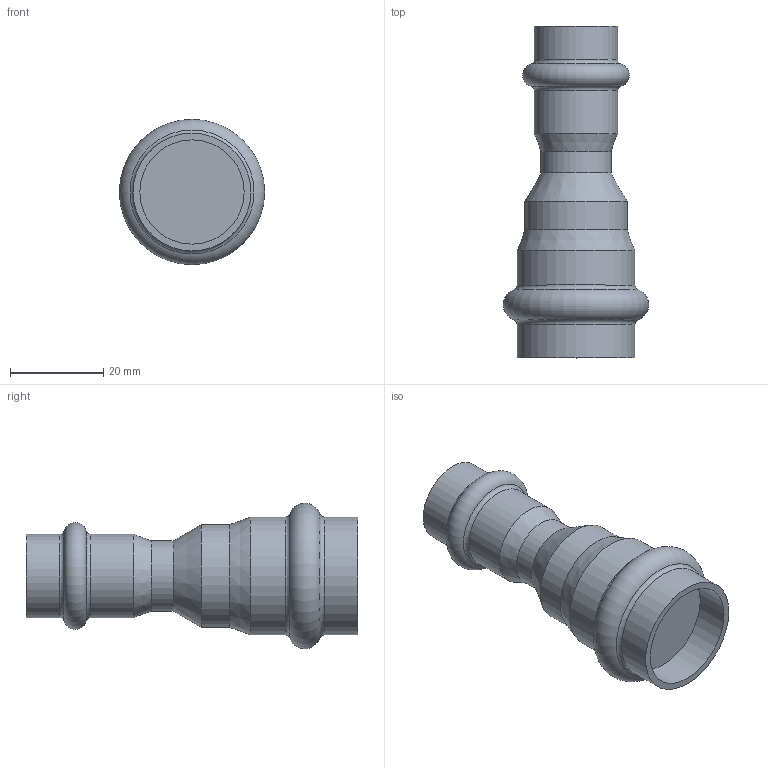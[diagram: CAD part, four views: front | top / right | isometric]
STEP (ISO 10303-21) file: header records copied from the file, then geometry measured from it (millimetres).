
FILE_DESCRIPTION(('STEP AP203'), '1');
FILE_NAME('VTi.903.I.002215', '', ('UNSPECIFIED'), ('UNSPECIFIED'), 'C3D Converter', 'C3D Toolkit', '');
FILE_SCHEMA(('CONFIG_CONTROL_DESIGN'));
Length unit declared in the file: millimetre
Bounding box: 31.1 x 71 x 31.1 mm (x, y, z)
Volume: 22550.9 mm3; surface area: 6831.7 mm2
Topology: 1 solids, 1 shells, 21 faces, 37 edges, 20 vertices
Faces by surface type: cylinder 8, torus 6, plane 4, cone 3
Full cylindrical faces by diameter (mm): 15 x1, 15.3 x1, 17.8 x2, 22 x1, 22.3 x1, 25.2 x2
Entity records: 454 total; most frequent: DIRECTION 84, CARTESIAN_POINT 62, AXIS2_PLACEMENT_3D 42, EDGE_LOOP 40, ORIENTED_EDGE 40, FACE_OUTER_BOUND 34, ADVANCED_FACE 21, EDGE_CURVE 20
